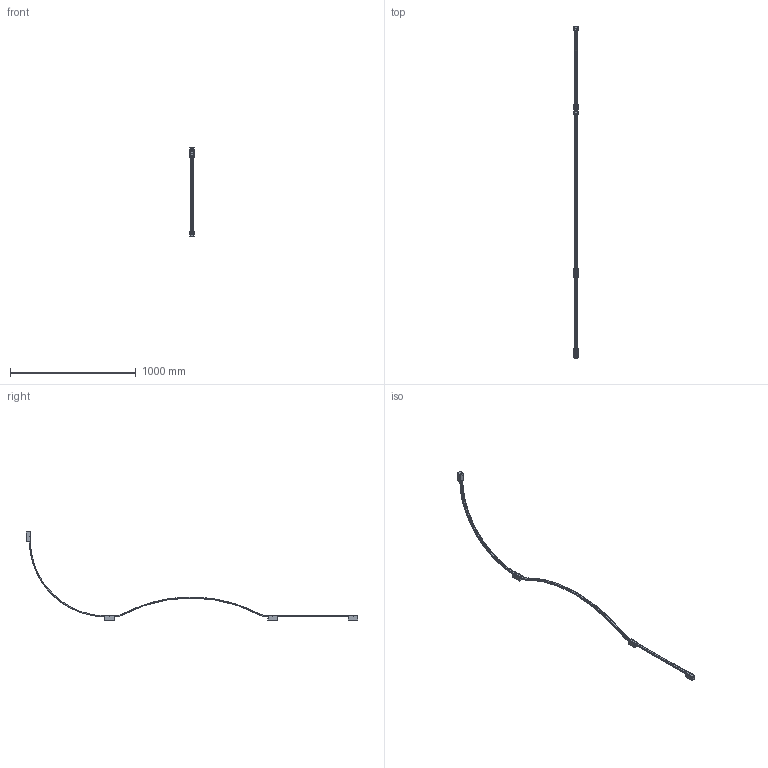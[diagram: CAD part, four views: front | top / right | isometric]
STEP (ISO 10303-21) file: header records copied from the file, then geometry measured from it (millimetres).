
FILE_DESCRIPTION(/* description */ (''),/* implementation_level */ '2;1');
FILE_NAME(/* name */ 'A138__~1',/* time_stamp */ '2024-07-02T12:07:03+02:00',/* author */ (''),/* organization */ (''),/* preprocessor_version */ 'ST-DEVELOPER v16.5',/* originating_system */ '',/* authorisation */ '');
FILE_SCHEMA (('AUTOMOTIVE_DESIGN'));
Length unit declared in the file: millimetre
Products named in the file (10): Configurazione 2; P22UT.0088 (blocchetto di fissaggio a muro ALL  + cover per blocchett
o di fissaggio ALL)_P22UT.0088 - con chiusura inferiore; socket set screw flat point_iso_ISO 4026 - M3 x 6-N; 3300.0428000.00 (profilo quadro a U ALL 35x35mm H 75mm sp 2 con fori 
M4)_3306.0428075.00; 3300.0427000.00 (blocchetto di fissaggio a muro ALL 30x32,8mm H 75,5m
m)_3307.0427075.00; sheet metal screws_din_Tapping screw DIN 7049-ST3.5x9.5-C-H-N; 4504.0008000.00 (bloccacavo a ponticello NY bianco Steab 5922-16)_450
4.0008000.00; 3300.0429000.00 (piastra di chiusura ALL 27x10mm sp 1,2)_3301.0429000.
00; P22UT.0088 (blocchetto di fissaggio a muro ALL  + cover per blocchett
o di fissaggio ALL)_P22UT.0088 - passante; Profilo curvato_Configurazione 2
Assembly tree (17 placements, depth 3):
  Configurazione 2
    P22UT.0088 (blocchetto di fissaggio a muro ALL  + cover per blocchett
o di fissaggio ALL)_P22UT.0088 - con chiusura inferiore  x3
      socket set screw flat point_iso_ISO 4026 - M3 x 6-N
      3300.0428000.00 (profilo quadro a U ALL 35x35mm H 75mm sp 2 con fori 
M4)_3306.0428075.00
      3300.0427000.00 (blocchetto di fissaggio a muro ALL 30x32,8mm H 75,5m
m)_3307.0427075.00
      sheet metal screws_din_Tapping screw DIN 7049-ST3.5x9.5-C-H-N
      4504.0008000.00 (bloccacavo a ponticello NY bianco Steab 5922-16)_450
4.0008000.00
      3300.0429000.00 (piastra di chiusura ALL 27x10mm sp 1,2)_3301.0429000.
00
    P22UT.0088 (blocchetto di fissaggio a muro ALL  + cover per blocchett
o di fissaggio ALL)_P22UT.0088 - passante
      3300.0427000.00 (blocchetto di fissaggio a muro ALL 30x32,8mm H 75,5m
m)_3307.0427075.00
      socket set screw flat point_iso_ISO 4026 - M3 x 6-N  x2
      3300.0428000.00 (profilo quadro a U ALL 35x35mm H 75mm sp 2 con fori 
M4)_3306.0428075.00
    Profilo curvato_Configurazione 2
Bounding box: 35 x 2639.25 x 700.92 mm (x, y, z)
Volume: 387812 mm3; surface area: 544777 mm2
Topology: 30 solids, 30 shells, 2390 faces, 5712 edges, 3372 vertices
Faces by surface type: bspline 1750, plane 640
Entity records: 39335 total; most frequent: CARTESIAN_POINT 27921, ORIENTED_EDGE 3854, EDGE_CURVE 1927, VERTEX_POINT 1114, B_SPLINE_CURVE_WITH_KNOTS 920, EDGE_LOOP 865, ADVANCED_FACE 834, FACE_OUTER_BOUND 834
